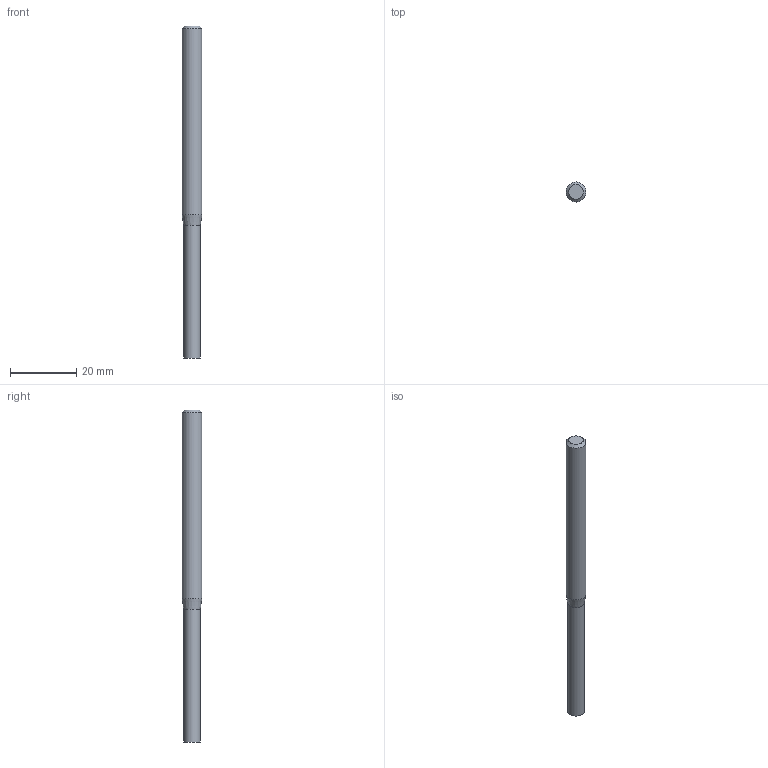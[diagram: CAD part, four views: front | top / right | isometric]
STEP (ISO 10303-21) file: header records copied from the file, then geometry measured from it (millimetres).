
FILE_DESCRIPTION((''),'2;1');
FILE_NAME('C:\Users\nsx150\Desktop\RSE230_20210427\01-00644-05004 RSE230 D5X40.step','2021-05-07T14:54:21',(''),(''),'STEP Write','Mastercam 2021 ... CNC Software, Inc.','');
FILE_SCHEMA(('AUTOMOTIVE_DESIGN'));
Length unit declared in the file: millimetre
Products named in the file (1): None
Bounding box: 6 x 6 x 100 mm (x, y, z)
Volume: 2462.3 mm3; surface area: 1832.5 mm2
Topology: 2 solids, 2 shells, 8 faces, 10 edges, 6 vertices
Faces by surface type: plane 4, cylinder 2, cone 2
Full cylindrical faces by diameter (mm): 5 x1, 6 x1
Entity records: 190 total; most frequent: DIRECTION 32, CARTESIAN_POINT 22, AXIS2_PLACEMENT_3D 16, ORIENTED_EDGE 12, EDGE_LOOP 12, STYLED_ITEM 11, ADVANCED_FACE 8, VERTEX_POINT 6
